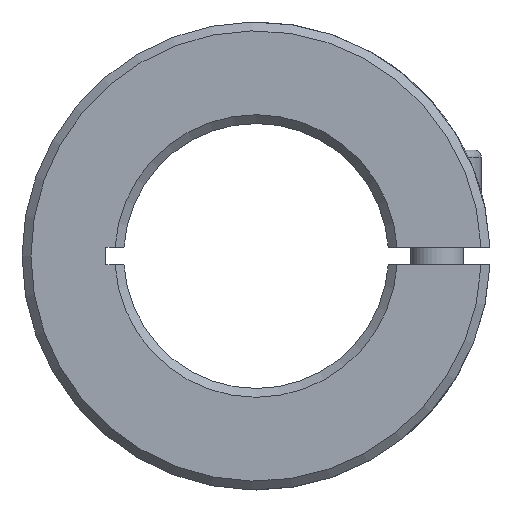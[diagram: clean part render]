
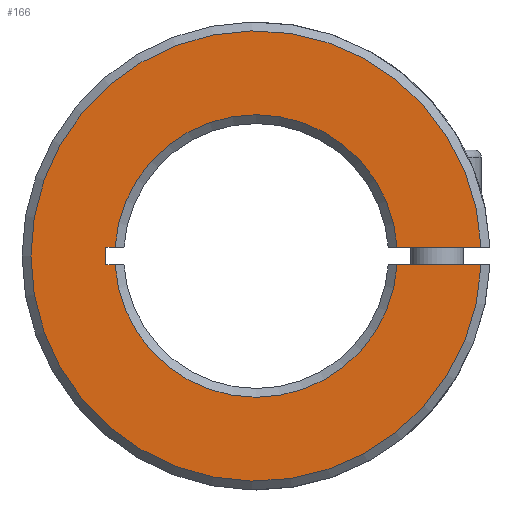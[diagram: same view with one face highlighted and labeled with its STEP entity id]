
A CAD part, front view. The second image highlights one B-rep face of the part: STEP entity #166.
In plain terms, the highlighted planar face has unit normal (0, -1, 0).
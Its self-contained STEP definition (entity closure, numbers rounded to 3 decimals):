
#166 = ADVANCED_FACE( '', ( #347 ), #348, .F. );
#347 = FACE_OUTER_BOUND( '', #595, .T. );
#348 = PLANE( '', #596 );
#595 = EDGE_LOOP( '', ( #852, #853, #854, #855, #856, #857, #858, #859 ) );
#596 = AXIS2_PLACEMENT_3D( '', #860, #861, #862 );
#852 = ORIENTED_EDGE( '', *, *, #1359, .F. );
#853 = ORIENTED_EDGE( '', *, *, #1360, .T. );
#854 = ORIENTED_EDGE( '', *, *, #1361, .F. );
#855 = ORIENTED_EDGE( '', *, *, #1362, .F. );
#856 = ORIENTED_EDGE( '', *, *, #1363, .T. );
#857 = ORIENTED_EDGE( '', *, *, #1364, .T. );
#858 = ORIENTED_EDGE( '', *, *, #1365, .T. );
#859 = ORIENTED_EDGE( '', *, *, #1366, .T. );
#860 = CARTESIAN_POINT( '', ( 0., -83., 0. ) );
#861 = DIRECTION( '', ( 0., 1., 0. ) );
#862 = DIRECTION( '', ( 0., 0., 1. ) );
#1359 = EDGE_CURVE( '', #1572, #1573, #1574, .T. );
#1360 = EDGE_CURVE( '', #1572, #1575, #1576, .T. );
#1361 = EDGE_CURVE( '', #1577, #1575, #1578, .T. );
#1362 = EDGE_CURVE( '', #1579, #1577, #1580, .T. );
#1363 = EDGE_CURVE( '', #1579, #1581, #1582, .T. );
#1364 = EDGE_CURVE( '', #1581, #1583, #1584, .T. );
#1365 = EDGE_CURVE( '', #1583, #1585, #1586, .T. );
#1366 = EDGE_CURVE( '', #1585, #1573, #1587, .F. );
#1572 = VERTEX_POINT( '', #1865 );
#1573 = VERTEX_POINT( '', #1866 );
#1574 = LINE( '', #1867, #1868 );
#1575 = VERTEX_POINT( '', #1869 );
#1576 = CIRCLE( '', #1870, 16. );
#1577 = VERTEX_POINT( '', #1871 );
#1578 = LINE( '', #1872, #1873 );
#1579 = VERTEX_POINT( '', #1874 );
#1580 = LINE( '', #1875, #1876 );
#1581 = VERTEX_POINT( '', #1877 );
#1582 = LINE( '', #1878, #1879 );
#1583 = VERTEX_POINT( '', #1880 );
#1584 = CIRCLE( '', #1881, 16. );
#1585 = VERTEX_POINT( '', #1882 );
#1586 = LINE( '', #1883, #1884 );
#1587 = CIRCLE( '', #1885, 25.5 );
#1865 = CARTESIAN_POINT( '', ( 15.969, -83., -1. ) );
#1866 = CARTESIAN_POINT( '', ( 25.48, -83., -1. ) );
#1867 = CARTESIAN_POINT( '', ( 0., -83., -1. ) );
#1868 = VECTOR( '', #2832, 1000. );
#1869 = CARTESIAN_POINT( '', ( -15.969, -83., -1. ) );
#1870 = AXIS2_PLACEMENT_3D( '', #2833, #2834, #2835 );
#1871 = CARTESIAN_POINT( '', ( -17., -83., -1. ) );
#1872 = CARTESIAN_POINT( '', ( 0., -83., -1. ) );
#1873 = VECTOR( '', #2836, 1000. );
#1874 = CARTESIAN_POINT( '', ( -17., -83., 1. ) );
#1875 = CARTESIAN_POINT( '', ( -17., -83., 0. ) );
#1876 = VECTOR( '', #2837, 1000. );
#1877 = CARTESIAN_POINT( '', ( -15.969, -83., 1. ) );
#1878 = CARTESIAN_POINT( '', ( 0., -83., 1. ) );
#1879 = VECTOR( '', #2838, 1000. );
#1880 = CARTESIAN_POINT( '', ( 15.969, -83., 1. ) );
#1881 = AXIS2_PLACEMENT_3D( '', #2839, #2840, #2841 );
#1882 = CARTESIAN_POINT( '', ( 25.48, -83., 1. ) );
#1883 = CARTESIAN_POINT( '', ( 0., -83., 1. ) );
#1884 = VECTOR( '', #2842, 1000. );
#1885 = AXIS2_PLACEMENT_3D( '', #2843, #2844, #2845 );
#2832 = DIRECTION( '', ( 1., 0., 0. ) );
#2833 = CARTESIAN_POINT( '', ( 0., -83., 0. ) );
#2834 = DIRECTION( '', ( 0., 1., 0. ) );
#2835 = DIRECTION( '', ( 0., 0., 1. ) );
#2836 = DIRECTION( '', ( 1., 0., 0. ) );
#2837 = DIRECTION( '', ( 0., 0., -1. ) );
#2838 = DIRECTION( '', ( 1., 0., 0. ) );
#2839 = CARTESIAN_POINT( '', ( 0., -83., 0. ) );
#2840 = DIRECTION( '', ( 0., 1., 0. ) );
#2841 = DIRECTION( '', ( 0., 0., 1. ) );
#2842 = DIRECTION( '', ( 1., 0., 0. ) );
#2843 = CARTESIAN_POINT( '', ( 0., -83., 0. ) );
#2844 = DIRECTION( '', ( 0., 1., 0. ) );
#2845 = DIRECTION( '', ( 0., 0., 1. ) );
